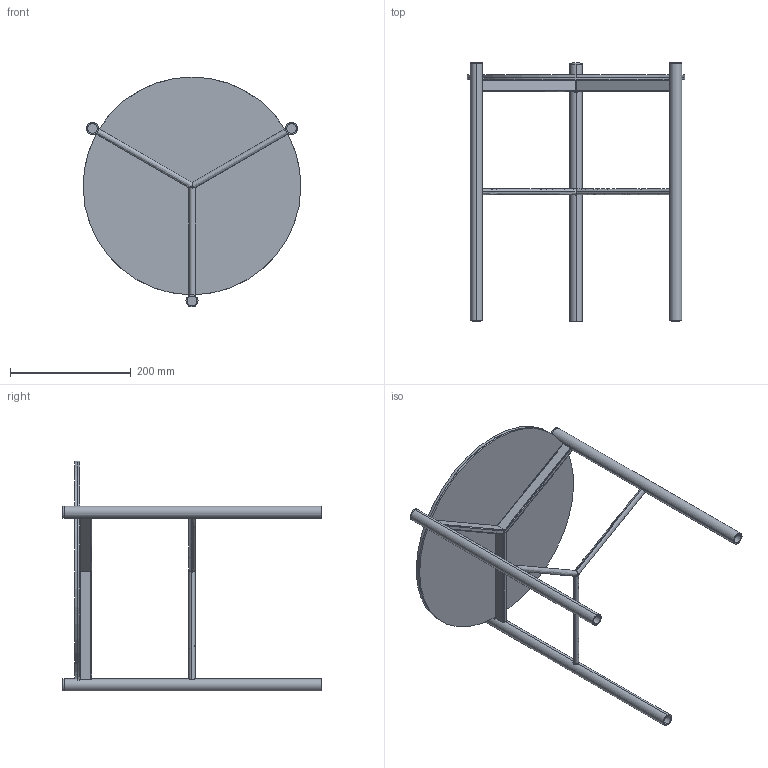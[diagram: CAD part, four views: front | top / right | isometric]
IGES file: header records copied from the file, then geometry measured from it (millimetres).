
Start section: SolidWorks IGES file using analytic representation for surfaces
Global section: file name: Y:\eforma\TECNICO\SOLIDWORKS\E-FORMA\2-TAVOLINI\JACK\02 parts\J501G.IGS; native system: SolidWorks 2022; preprocessor: SolidWorks 2022; author: eforma.tech; date: 240806.133938; units: millimetre
Bounding box: 360 x 427 x 380.07 mm (x, y, z)
Volume: 1002807.9 mm3; surface area: 648678.4 mm2
Topology: 14 solids, 14 shells, 125 faces, 293 edges, 194 vertices
Faces by surface type: revolution 73, plane 52
